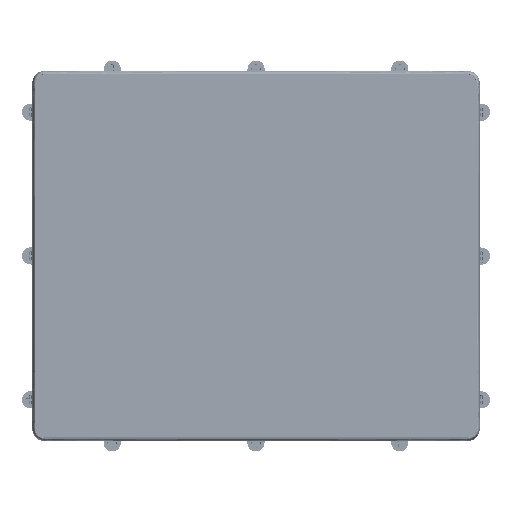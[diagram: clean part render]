
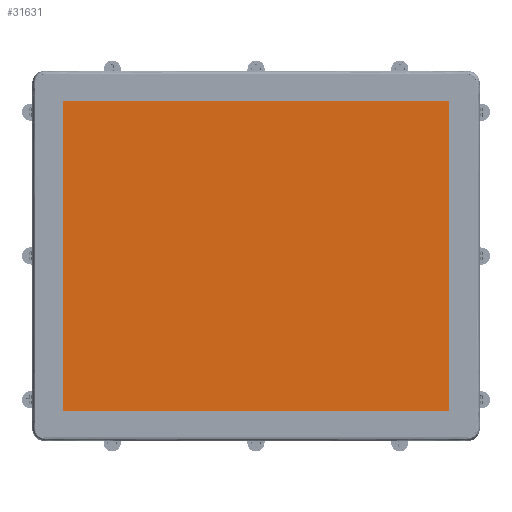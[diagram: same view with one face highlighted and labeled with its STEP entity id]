
A CAD part, top view. The second image highlights one B-rep face of the part: STEP entity #31631.
In plain terms, the highlighted planar face has unit normal (0, 0, 1).
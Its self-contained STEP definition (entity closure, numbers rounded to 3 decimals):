
#3411=DIRECTION('',(0.,-1.,0.));
#3412=VECTOR('',#3411,271.34);
#3413=CARTESIAN_POINT('',(-169.46,135.67,5.94));
#3414=LINE('',#3413,#3412);
#3415=DIRECTION('',(-1.,0.,0.));
#3416=VECTOR('',#3415,338.92);
#3417=CARTESIAN_POINT('',(169.46,135.67,5.94));
#3418=LINE('',#3417,#3416);
#3419=DIRECTION('',(0.,1.,0.));
#3420=VECTOR('',#3419,271.34);
#3421=CARTESIAN_POINT('',(169.46,-135.67,5.94));
#3422=LINE('',#3421,#3420);
#3423=DIRECTION('',(1.,0.,0.));
#3424=VECTOR('',#3423,338.92);
#3425=CARTESIAN_POINT('',(-169.46,-135.67,5.94));
#3426=LINE('',#3425,#3424);
#27506=CARTESIAN_POINT('',(-169.46,135.67,5.94));
#27508=VERTEX_POINT('',#27506);
#27511=CARTESIAN_POINT('',(-169.46,-135.67,5.94));
#27513=VERTEX_POINT('',#27511);
#27514=CARTESIAN_POINT('',(169.46,135.67,5.94));
#27516=VERTEX_POINT('',#27514);
#27518=CARTESIAN_POINT('',(169.46,-135.67,5.94));
#27520=VERTEX_POINT('',#27518);
#31620=CARTESIAN_POINT('',(0.,0.,5.94));
#31621=DIRECTION('',(0.,0.,1.));
#31622=DIRECTION('',(1.,0.,0.));
#31623=AXIS2_PLACEMENT_3D('',#31620,#31621,#31622);
#31624=PLANE('',#31623);
#31625=ORIENTED_EDGE('',*,*,#31543,.F.);
#31626=ORIENTED_EDGE('',*,*,#31567,.F.);
#31627=ORIENTED_EDGE('',*,*,#31586,.F.);
#31628=ORIENTED_EDGE('',*,*,#31606,.F.);
#31629=EDGE_LOOP('',(#31625,#31626,#31627,#31628));
#31630=FACE_OUTER_BOUND('',#31629,.F.);
#31631=ADVANCED_FACE('',(#31630),#31624,.T.);
#31543=EDGE_CURVE('',#27508,#27513,#3414,.T.);
#31567=EDGE_CURVE('',#27516,#27508,#3418,.T.);
#31586=EDGE_CURVE('',#27520,#27516,#3422,.T.);
#31606=EDGE_CURVE('',#27513,#27520,#3426,.T.);
